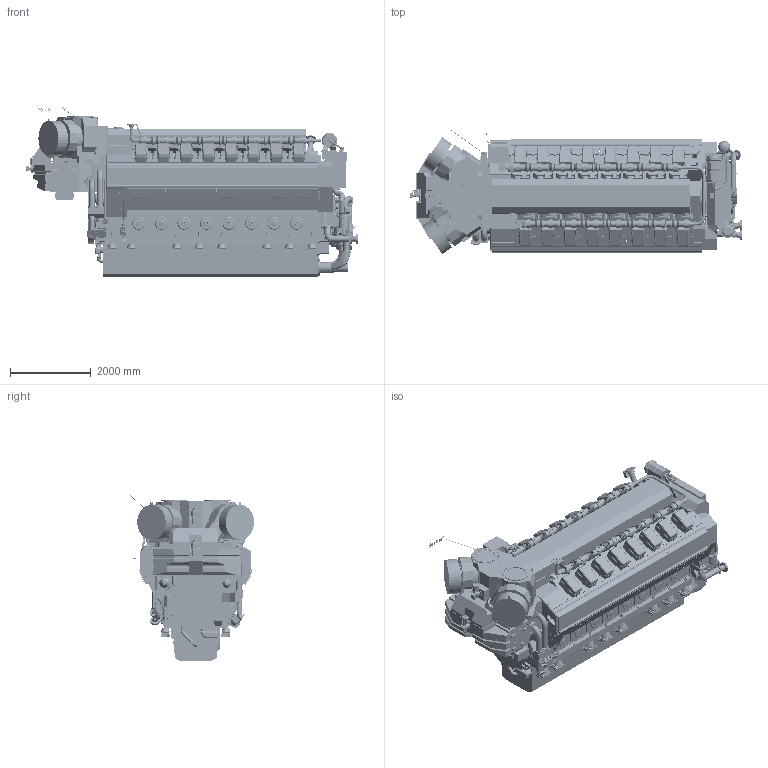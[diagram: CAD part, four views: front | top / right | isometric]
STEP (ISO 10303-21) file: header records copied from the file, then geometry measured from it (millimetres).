
FILE_DESCRIPTION(/* description */ (''),/* implementation_level */ '2;1');
FILE_NAME(/* name */ 'DAAF380189_A.stp',/* time_stamp */ '2022-01-12T14:05:42+02:00',/* author */ (''),/* organization */ (''),/* preprocessor_version */ 'ST-DEVELOPER v16.7',/* originating_system */ 'SIEMENS PLM Software NX 1915',/* authorisation */ '');
FILE_SCHEMA (('AUTOMOTIVE_DESIGN { 1 0 10303 214 3 1 1 1 }'));
Products named in the file (82): 001240134-A_STEEL PLATE; 001240134--_STEEL PLATE; PABA336739--_Cover; PABA337764--_Body; PAAF523057--; PAAF702810--_STUD; 0031B006100-K_ROUND NUT_MODEL; PABA173946--_Nitrogen gas pipe; PABA274494--_flywheel; PAAF406153--_STARTING AIR PIPE_MODEL; 0032A047800-B_FLANGE_MODEL; PAAF064590--_COVERS; PABA002081--_Main cabinet 2nd gen unic; PABA002426--_Oil mist detector DN150_ Dr Horn DN125; PAAF195815--_COVERS; PABA068010--_Gas feed pipe between banks; PAAF166694--_MOTOR; PABA066964--_Double wall gas vent system; PABA068052--_Gas bellows; PABA065852--_Gas feed pipe from roof; PABA068023--_Gas manifold; PAAF245462--_LUBRICATING OIL PIPES; PAAF245312--_END COVER; PAAF087147--_OIL SUCTION PIPE; PAAF074448--_WET SUMP; PAAF074389--_END COVER; PAAF308706--_CHARGE AIR SYSTEM; PABA039601--_Covers for air ducts Napier NT1-10; PAAF783084--_WASTE GATE _ BY-PASS; PABA039759--_Fastening equipment for charge air cooler; PAAF308705--_TURBOCHARGER; PAAF243353--_LT-WATER PIPE; PABA134891--_Electrical equipment tor NT1-10_ TCD; PAAF078708--_ACTUATOR; PAAF243367--_GOVERNOR; PAAF313559--_CLEANING DEVICE; PAAF785461--_COVERS; PAAF313561--_INSULATION BOX; PAAF066763--_INSULATING BOX; PAAF093851--_WATER PIPE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
Assembly tree (193 placements, depth 4):
  DAAF380189_A-Outline drawing
    PABA338023--_3D tag MC
    PABA337973--_W16V34DFC-TCD-WET
      PABA034609--_Cylinder heads and multiducts 16V
      PAAF063635--_ENGINE BLOCK
      PAAF238216--_CRANKSHAFT
      PABA034962--_End cover for camshaft B-bank
      PAAF295070--_INTERMEDIATE GEAR
      PABA001563--_Shut-down mechanism
      PABA001817--_Covers for crankcase and camshaft
      PABA052452--_Covers for air bottle_ noise reduction
      PABA201394--_Covers top shields
      PABA052426--_Cylinder head covers 16V
      PAAF078522--_FUEL PIPES
      PAAF078123--_COVER
      PAAF087083--_LEAK FUEL SYSTEM
      PAAF074394--_PUMP COVER
      PAAF304653--_PUMP COVER
      PAAF087113--_LEAK FUEL SYSTEM
      PAAF087117--_LEAK FUEL SYSTEM
      PAAF247464--_FRAME
      PAAF087123--_LEAK FUEL PIPES
      PAAF078077--_TURNING DEVICE
      PAAF245056--_LUBRICATING OIL PUMP
      PAAF243370--_PRELUBRICATING PUMP
      PAAF087128--_OIL PIPE
      PAAF087127--_LUBE OIL SYSTEM
      PAAF078535--_COOLING WATER PIPES
      PAAF074412--_LUBE OIL MODULE
      PAAF090571--_LUBRICATING OIL PIPES
      PAAF221638--_WATER PUMP
      PAAF077589--_CONNECTING PIECE
      PAAF093826--_WATER PIPE
      PAAF078607--_HT-WATER PIPES
      PAAF078609--_HT-WATER SYSTEM
      PAAF221967--_WATER PUMP
      PAAF077590--_THERMOSTATIC VALVE  x2
      PAAF078635--_LT-WATER SYSTEM
      PAAF093851--_WATER PIPE
      PAAF066763--_INSULATING BOX
      PAAF313561--_INSULATION BOX
      PAAF785461--_COVERS
      PAAF313559--_CLEANING DEVICE
      PAAF243367--_GOVERNOR
      PAAF078708--_ACTUATOR  x2
      PABA134891--_Electrical equipment tor NT1-10_ TCD
      PAAF243353--_LT-WATER PIPE
      PABA337763--_Electrical equipment for side cover_MODEL
        PABA337764--_Body
        PABA336739--_Cover  x8
      PAAF308705--_TURBOCHARGER
      PABA039759--_Fastening equipment for charge air cooler
      PAAF783084--_WASTE GATE _ BY-PASS
      PABA039601--_Covers for air ducts Napier NT1-10
      PAAF308706--_CHARGE AIR SYSTEM
      PAAF074389--_END COVER
      PAAF074448--_WET SUMP
      PAAF087147--_OIL SUCTION PIPE
      PAAF245312--_END COVER
      PAAF245462--_LUBRICATING OIL PIPES
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Bounding box: 8239.67 x 3081.17 x 4212.62 mm (x, y, z)
Volume: 32440368187.5 mm3; surface area: 386422719 mm2
Topology: 544 solids, 708 shells, 22471 faces, 55554 edges, 35556 vertices
Faces by surface type: plane 11281, cylinder 6110, bspline 3012, torus 948, cone 635, extrusion 426, sphere 44, revolution 15
Full cylindrical faces by diameter (mm): 0.107 x1, 3.3 x16, 6 x14, 6.2 x128, 8 x17, 8.5 x1, 8.993 x3, 9 x1, 9.5 x1, 9.685 x1, 10 x28, 11 x21, 11.908 x1, 11.995 x1, 12 x7, 13.2 x4, 13.5 x4, 14 x64, 14.596 x1, 15 x24, 15.5 x4, 15.7 x4, 16 x13, 16.5 x3, 16.658 x1, 17 x2, 17.5 x132, 17.997 x1, 18 x112, 19 x2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
Entity records: 680176 total; most frequent: CARTESIAN_POINT 246520, ORIENTED_EDGE 88620, DIRECTION 84465, EDGE_CURVE 44310, AXIS2_PLACEMENT_3D 29229, VERTEX_POINT 28954, VECTOR 25992, LINE 25734
